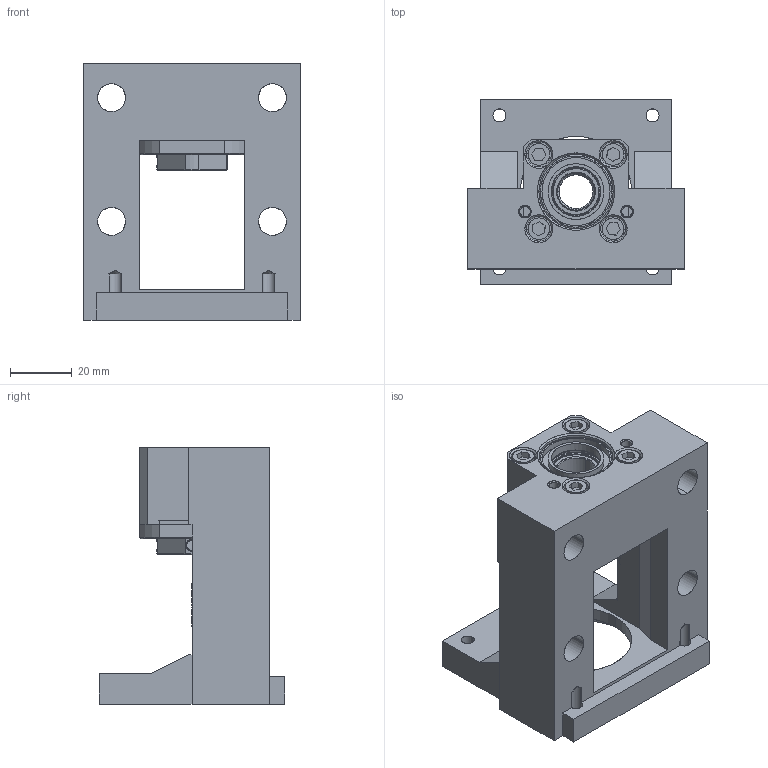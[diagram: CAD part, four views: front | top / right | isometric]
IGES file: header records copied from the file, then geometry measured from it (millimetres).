
Start section: SolidWorks IGES file using analytic representation for surfaces
Global section: file name: C:\Users\117\Desktop\1061208網站3D圖檔問題處理\傳動座\整合型\MBCE\MBCE12-D.IGS,15HSolidWorks; native system: 2017; preprocessor: SolidWorks 2017; author: 117; date: 171228.152333; units: millimetre
Bounding box: 70 x 60 x 83 mm (x, y, z)
Surface area: 36514.5 mm2 (no closed solid volume)
Topology: 0 solids, 0 shells, 287 faces, 3940 edges, 3900 vertices
Faces by surface type: revolution 170, bspline 117
